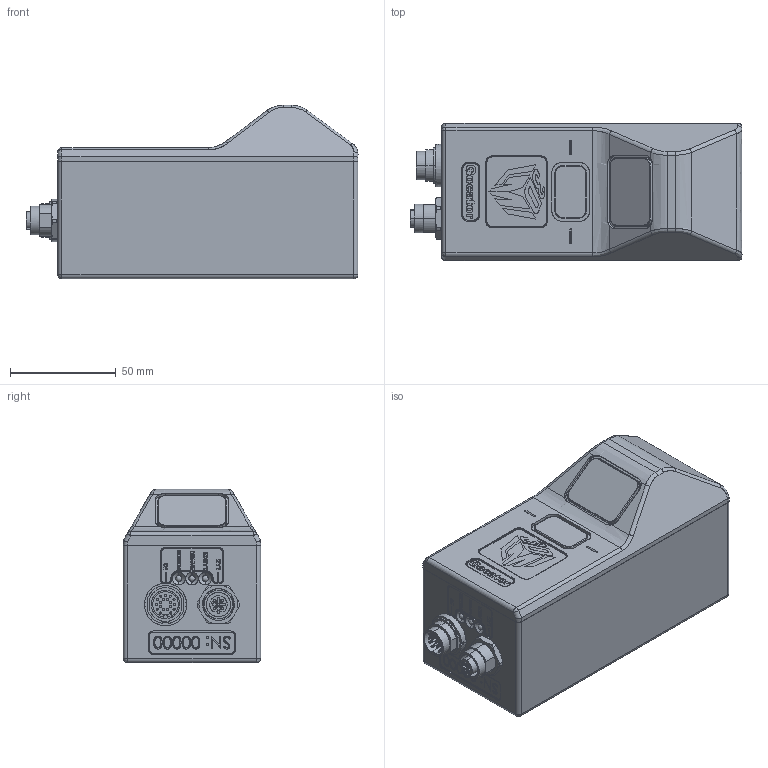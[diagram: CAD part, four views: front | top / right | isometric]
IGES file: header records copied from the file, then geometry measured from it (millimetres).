
Start section: SolidWorks IGES file using analytic representation for surfaces
Global section: file name: C:\Users\RMansour\Desktop\Projects\312020-1.0_MKT_SENSOR_Gocator2020.IGS; native system: SolidWorks 2010; preprocessor: SolidWorks 2010; author: RMansour; date: 110603.173136; units: millimetre
Bounding box: 157 x 65 x 82 mm (x, y, z)
Surface area: 88609.7 mm2 (no closed solid volume)
Topology: 0 solids, 0 shells, 1178 faces, 14219 edges, 14169 vertices
Faces by surface type: bspline 808, revolution 370
